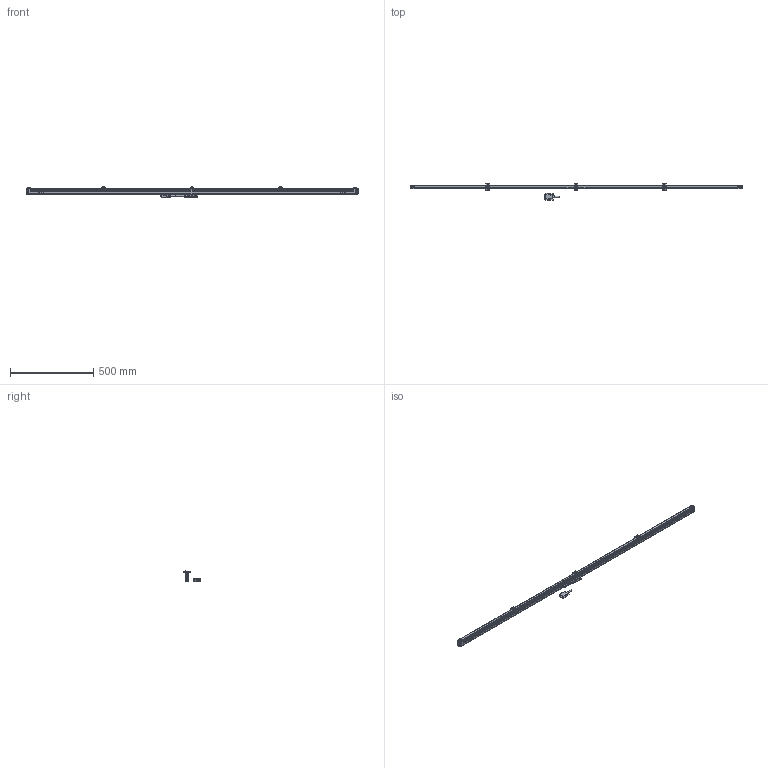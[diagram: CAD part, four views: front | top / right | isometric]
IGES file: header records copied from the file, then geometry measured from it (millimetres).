
Start section: Elysium IGES Interface
Global section: file name: 89H\\Utsu119s\kiyo_cad\data\3D\AT715\HP掲載用_201710\ﾓﾃﾞﾙ修正後_IGES\AT715-1800_営業送付.igs; native system: Creo Elements/Direct Modeling 18.1B  29-Sep-2012; preprocessor: Creo Element/Direct IGES_3D V2.2; author: Unknown; organization: Unknown; date: 20181220.145348; units: millimetre
Bounding box: 1998 x 99 x 68.35 mm (x, y, z)
Volume: 4291489.7 mm3; surface area: 891012.9 mm2
Topology: 5 solids, 10 shells, 1995 faces, 5212 edges, 3277 vertices
Faces by surface type: bspline 1995
